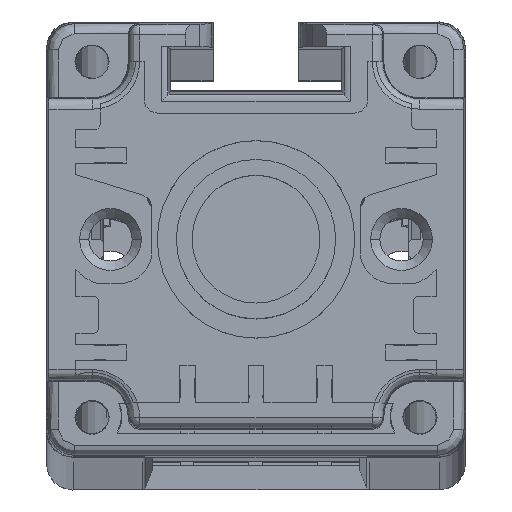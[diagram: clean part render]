
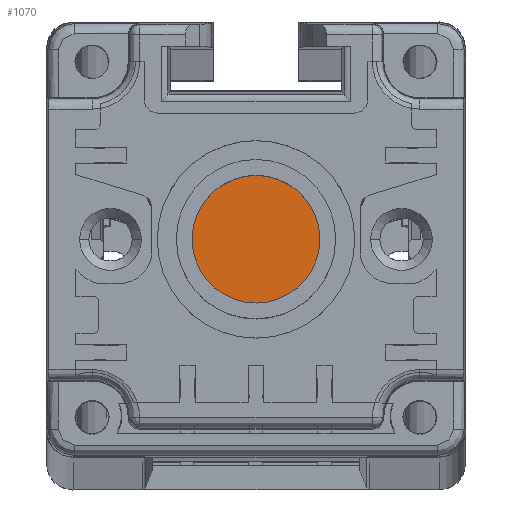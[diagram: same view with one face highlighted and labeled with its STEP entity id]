
A CAD part, top view. The second image highlights one B-rep face of the part: STEP entity #1070.
In plain terms, the highlighted planar face has unit normal (0, 0, 1).
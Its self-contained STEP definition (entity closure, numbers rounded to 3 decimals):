
#1070=ADVANCED_FACE('',(#2034),#1539,.T.);
#1539=PLANE('',#13341);
#2034=FACE_OUTER_BOUND('',#2672,.T.);
#2672=EDGE_LOOP('',(#7402,#7403));
#7402=ORIENTED_EDGE('',*,*,#11440,.T.);
#7403=ORIENTED_EDGE('',*,*,#11438,.T.);
#9851=VERTEX_POINT('',#19948);
#9852=VERTEX_POINT('',#19950);
#11438=EDGE_CURVE('',#9852,#9851,#12517,.T.);
#11440=EDGE_CURVE('',#9851,#9852,#12518,.T.);
#12517=CIRCLE('',#13337,4.85);
#12518=CIRCLE('',#13339,4.85);
#13337=AXIS2_PLACEMENT_3D('',#19949,#15875,#15876);
#13339=AXIS2_PLACEMENT_3D('',#19953,#15880,#15881);
#13341=AXIS2_PLACEMENT_3D('',#19955,#15884,#15885);
#15875=DIRECTION('',(0.,0.,1.));
#15876=DIRECTION('',(1.,0.,0.));
#15880=DIRECTION('',(0.,0.,1.));
#15881=DIRECTION('',(-1.,0.,0.));
#15884=DIRECTION('',(0.,0.,1.));
#15885=DIRECTION('',(-1.,0.,0.));
#19948=CARTESIAN_POINT('',(20.025,26.865,16.));
#19949=CARTESIAN_POINT('',(24.875,26.865,16.));
#19950=CARTESIAN_POINT('',(29.725,26.865,16.));
#19953=CARTESIAN_POINT('',(24.875,26.865,16.));
#19955=CARTESIAN_POINT('',(0.,0.,16.));
